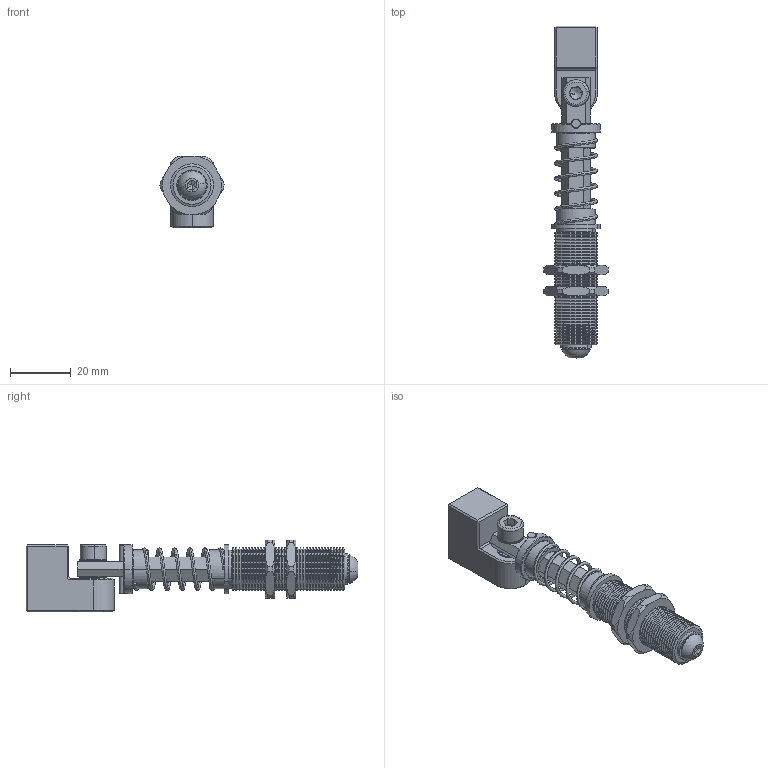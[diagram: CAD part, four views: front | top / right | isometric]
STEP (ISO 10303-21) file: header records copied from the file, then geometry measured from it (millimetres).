
FILE_DESCRIPTION (( 'STEP AP214' ), '1' );
FILE_NAME ('VFMT-20M14-G18.STEP', '2019-12-19T05:22:57', ( '微软用户' ), ( '微软中国' ), 'SwSTEP 2.0', 'SolidWorks 2016', '' );
FILE_SCHEMA (( 'AUTOMOTIVE_DESIGN' ));
Length unit declared in the file: millimetre
Products named in the file (1): VFMT-20M14-G18
Bounding box: 21 x 108.85 x 23.55 mm (x, y, z)
Volume: 15911.5 mm3; surface area: 15050.5 mm2
Topology: 15 solids, 15 shells, 1039 faces, 2727 edges, 1711 vertices
Faces by surface type: plane 682, cone 204, cylinder 145, torus 4, bspline 2, sphere 2
Entity records: 45890 total; most frequent: CARTESIAN_POINT 8045, DIRECTION 5719, ORIENTED_EDGE 5442, EDGE_CURVE 2721, AXIS2_PLACEMENT_3D 2031, VERTEX_POINT 1711, VECTOR 1657, LINE 1657
